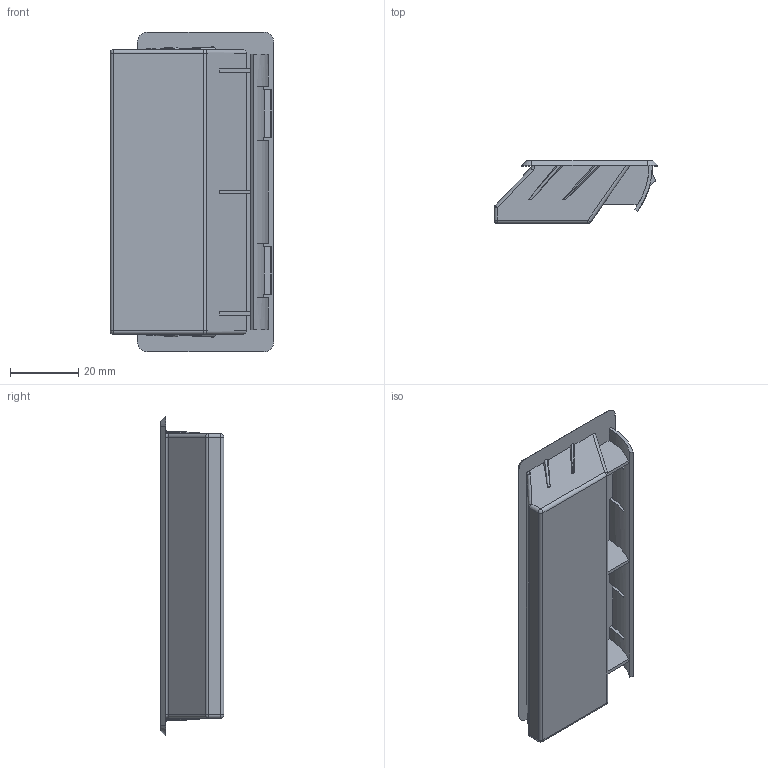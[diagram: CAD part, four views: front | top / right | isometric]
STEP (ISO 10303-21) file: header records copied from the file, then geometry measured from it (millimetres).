
FILE_DESCRIPTION (( 'STEP AP203' ), '1' );
FILE_NAME ('XG01-016-2DMK.STEP', '2025-08-02T08:28:16', ( '微软用户' ), ( '微软中国' ), 'SwSTEP 2.0', 'SolidWorks 2024', '' );
FILE_SCHEMA (( 'CONFIG_CONTROL_DESIGN' ));
Length unit declared in the file: millimetre
Products named in the file (1): XG01-016-2DMK
Bounding box: 48 x 18.6 x 93.8 mm (x, y, z)
Volume: 13275.7 mm3; surface area: 19049.2 mm2
Topology: 1 solids, 1 shells, 132 faces, 356 edges, 216 vertices
Faces by surface type: plane 65, cylinder 45, sphere 12, torus 4, cone 4, bspline 2
Entity records: 4164 total; most frequent: CARTESIAN_POINT 829, ORIENTED_EDGE 696, DIRECTION 687, EDGE_CURVE 348, AXIS2_PLACEMENT_3D 236, VERTEX_POINT 216, LINE 215, VECTOR 215
